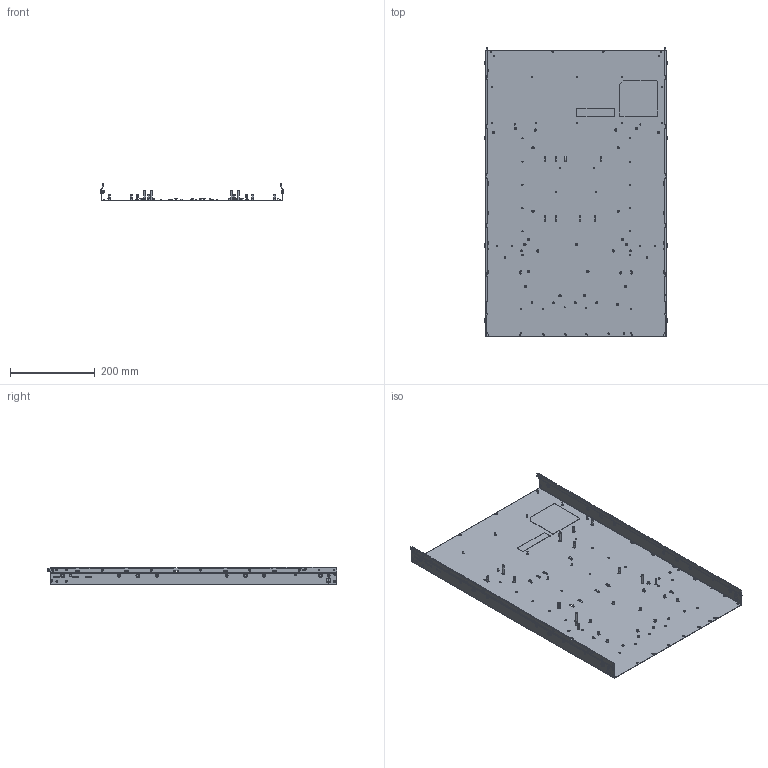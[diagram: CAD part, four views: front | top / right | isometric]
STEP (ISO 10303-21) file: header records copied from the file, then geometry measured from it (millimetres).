
FILE_DESCRIPTION((''),'2;1');
FILE_NAME('\\mtlfs01\svhome\Mechanic\NEPTUNE\NEPTUNE LONG - 27in\HELP FILES\MEC008320_02.stp','2014-07-09T22:46:24',('andreyg'),(''),'Autodesk Inventor 2013','Autodesk Inventor 2013','');
FILE_SCHEMA(('AUTOMOTIVE_DESIGN { 1 0 10303 214 1 1 1 1 }'));
Products named in the file (12): MEC008320_NEPTUNE BASE LONG; MEC007949 STANDOFF SOS-6440-8  REWORK ; PEM Miniature Self-Clinching Fasteners U,FEX,FEOX - Inch FEOX-440; PEM Self-Clinching Studs FH,FHS,FHA - Inch FHS-440-4; MEC008049_SHEET JOINING FASTENER; 20130814-013859-72639689; SKC-61.5-4; CLS-632-1 PEM NUT; MEC007975 STANDOFF BSOS-6440-20  REWORK ; PEM Self-Clinching Pins TPS - Inch TPS-187-16; MEC008917 STANDOFF BSOS-440-20  REWORK
Assembly tree (79 placements, depth 2):
  MEC008320_NEPTUNE BASE LONG
    MEC008320_NEPTUNE BASE LONG
    MEC007949 STANDOFF SOS-6440-8  REWORK   x12
    PEM Miniature Self-Clinching Fasteners U,FEX,FEOX - Inch FEOX-440  x14
    PEM Self-Clinching Studs FH,FHS,FHA - Inch FHS-440-4  x14
    MEC008049_SHEET JOINING FASTENER  x8
    20130814-013859-72639689  x5
    SKC-61.5-4
    CLS-632-1 PEM NUT  x10
    MEC007975 STANDOFF BSOS-6440-20  REWORK   x8
    PEM Self-Clinching Pins TPS - Inch TPS-187-16  x4
    MEC008917 STANDOFF BSOS-440-20  REWORK  x2
Bounding box: 433.2 x 684.2 x 42 mm (x, y, z)
Volume: 355528.6 mm3; surface area: 714226.5 mm2
Topology: 79 solids, 79 shells, 3101 faces, 8002 edges, 5225 vertices
Faces by surface type: plane 1725, cylinder 1113, cone 213, torus 50
Full cylindrical faces by diameter (mm): 2.156 x36, 2.5 x51, 2.819 x14, 2.845 x28, 2.946 x5, 3.505 x10, 3.6 x4, 3.683 x14, 3.772 x5, 3.785 x2, 3.835 x14, 3.981 x10, 4.191 x21, 4.2 x7, 4.343 x14, 4.4 x14, 4.47 x14, 4.5 x1, 4.55 x1, 4.75 x14, 4.8 x10, 4.877 x14, 5 x20, 5.093 x4, 5.207 x4, 5.385 x28, 5.4 x1, 5.41 x21, 5.5 x8, 5.804 x4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
Entity records: 36917 total; most frequent: CARTESIAN_POINT 7526, DIRECTION 5988, ORIENTED_EDGE 5554, EDGE_CURVE 2777, AXIS2_PLACEMENT_3D 2173, VERTEX_POINT 1945, EDGE_LOOP 1808, VECTOR 1642
